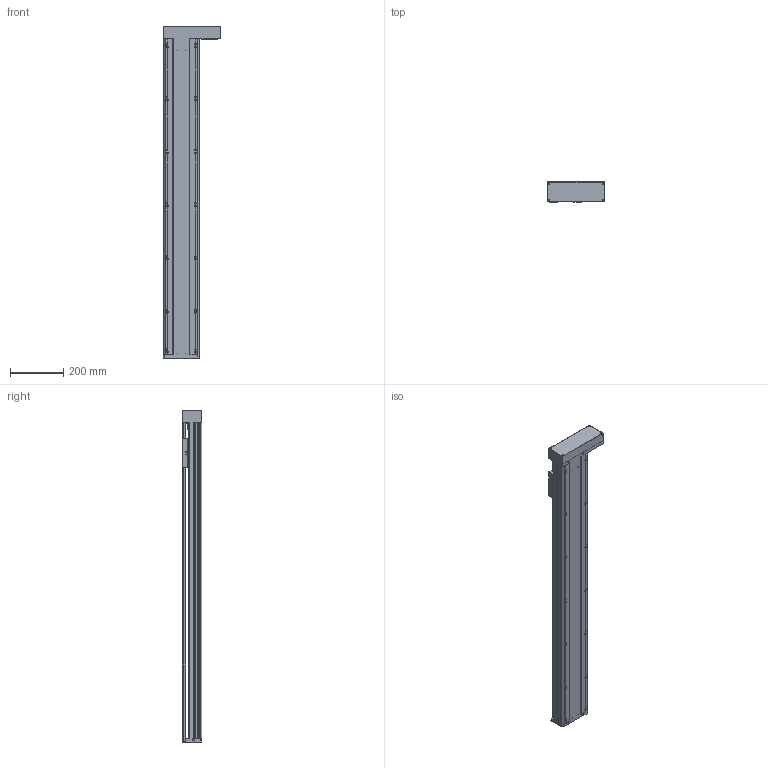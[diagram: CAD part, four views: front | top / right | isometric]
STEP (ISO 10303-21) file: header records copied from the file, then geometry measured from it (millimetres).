
FILE_DESCRIPTION(/* description */ (''),/* implementation_level */ '2;1');
FILE_NAME(/* name */ 'TKA136-FR-1000_asm1.stp',/* time_stamp */ '2016-05-07T14:56:55+08:00',/* author */ (''),/* organization */ (''),/* preprocessor_version */ 'ST-DEVELOPER v15',/* originating_system */ 'SIEMENS PLM Software NX 8.5',/* authorisation */ '');
FILE_SCHEMA (('AUTOMOTIVE_DESIGN { 1 0 10303 214 3 1 1 1 }'));
Length unit declared in the file: millimetre
Products named in the file (3): 100-02; 100-01; TKA136-FR-1000_asm1
Assembly tree (2 placements, depth 2):
  TKA136-FR-1000_asm1
    100-01
    100-02
Bounding box: 216 x 75 x 1250 mm (x, y, z)
Volume: 3791712.4 mm3; surface area: 1478439.9 mm2
Topology: 2 solids, 12 shells, 913 faces, 2624 edges, 1717 vertices
Faces by surface type: cylinder 441, plane 419, cone 53
Full cylindrical faces by diameter (mm): 2.5 x4, 3 x2, 3.3 x15, 4 x4, 4.2 x14, 4.5 x26, 5 x18, 5.5 x26, 6.6 x18, 8 x20, 10 x9, 10.5 x14, 11 x4, 11.6 x1, 12 x9, 15 x3, 16 x5, 17 x1, 24 x5, 26 x1, 28 x1, 46 x2, 50 x1
Entity records: 30969 total; most frequent: CARTESIAN_POINT 8384, DIRECTION 4667, ORIENTED_EDGE 4410, EDGE_CURVE 2205, AXIS2_PLACEMENT_3D 1781, VERTEX_POINT 1579, EDGE_LOOP 1349, LINE 1105
